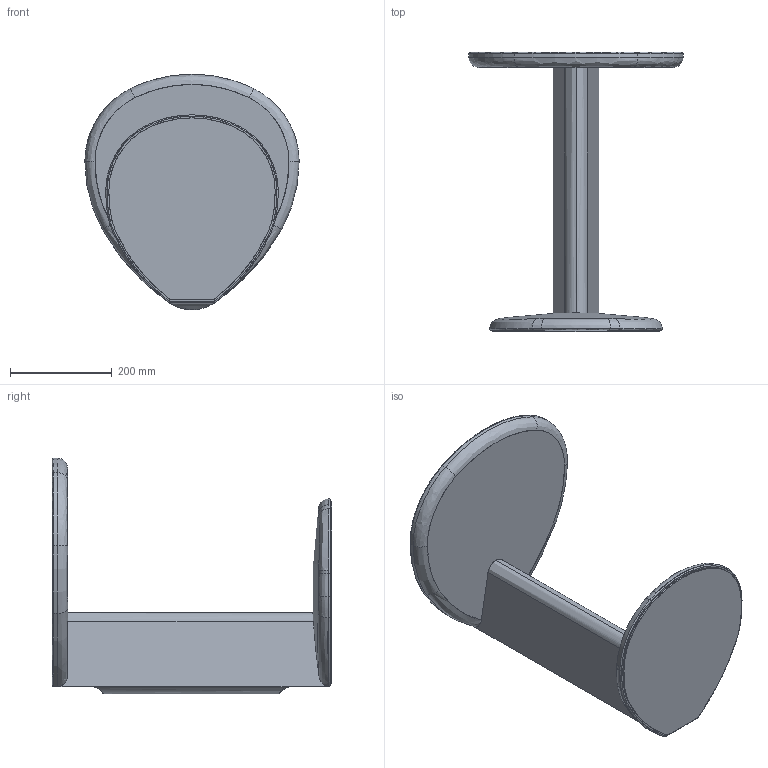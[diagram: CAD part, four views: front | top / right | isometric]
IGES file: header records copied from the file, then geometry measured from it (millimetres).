
Start section: SolidWorks IGES file using analytic representation for surfaces
Global section: file name: C:\Users\Utilizador\Desktop\Sales Files\689\689 Twenty-Five Side Table_3D IGS.IGS; native system: SolidWorks 2016; preprocessor: SolidWorks 2016; author: Utilizador; date: 221020.162252; units: millimetre
Bounding box: 422 x 550 x 464 mm (x, y, z)
Surface area: 747783.2 mm2 (no closed solid volume)
Topology: 0 solids, 0 shells, 114 faces, 1554 edges, 1553 vertices
Faces by surface type: bspline 64, revolution 50
